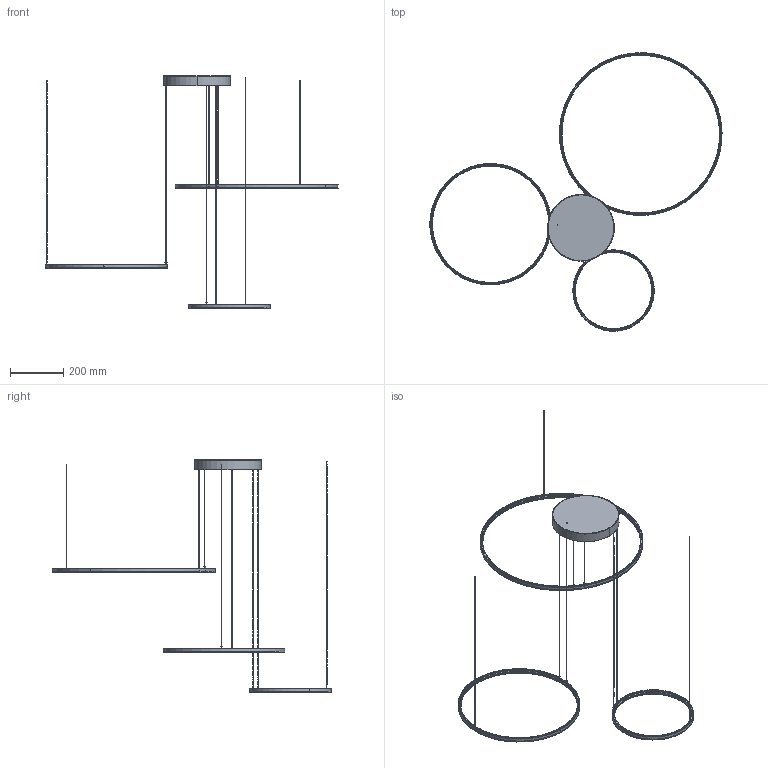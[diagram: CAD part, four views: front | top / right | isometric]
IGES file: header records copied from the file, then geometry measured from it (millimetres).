
Start section: SolidWorks IGES file using analytic representation for surfaces
Global section: file name: C:\Users\anna.bielnik\Desktop\modele 3D tymczasowe\CIRCOLO\CIRCOLO zwis potrójny\PM\PMCIRCOLO LED SH-60-45-30.IGS; native system: SolidWorks 2023; preprocessor: SolidWorks 2023; author: anna.bielnik; date: 230622.094024; units: millimetre
Bounding box: 1095 x 1043.24 x 872 mm (x, y, z)
Surface area: 673225 mm2 (no closed solid volume)
Topology: 0 solids, 0 shells, 210 faces, 5830 edges, 5830 vertices
Faces by surface type: revolution 116, bspline 94
